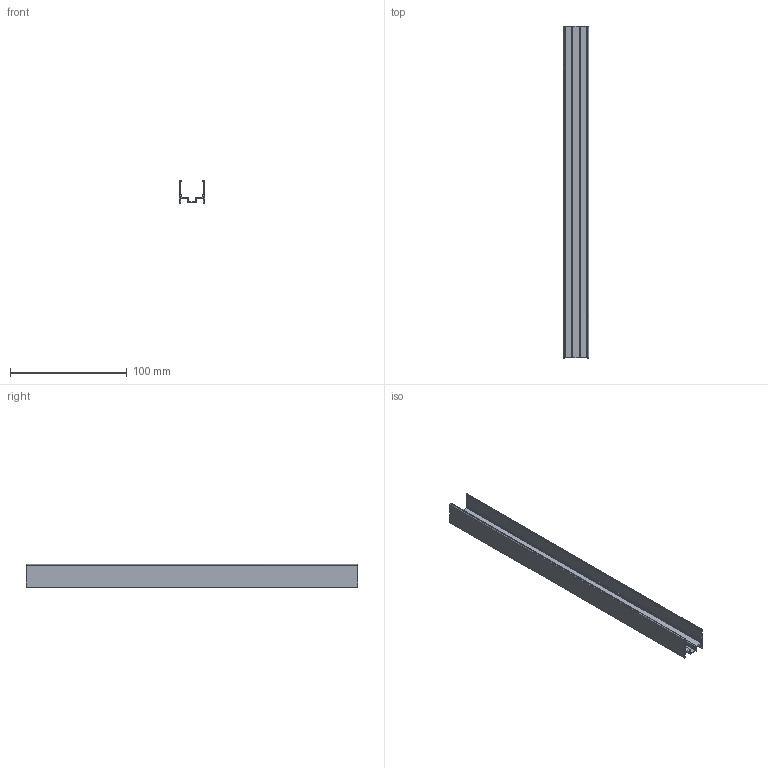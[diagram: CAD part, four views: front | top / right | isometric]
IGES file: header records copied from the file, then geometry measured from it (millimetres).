
Start section: C
Global section: file name: 025-000-0L.igs; native system: By Siemens PLM Incorporated; preprocessor: XPlus GENERIC/IGES 23.0.61; author: Author; organization: Title; date: 20250508.160914; units: millimetre
Bounding box: 21.5 x 284 x 19.7 mm (x, y, z)
Volume: 19571.7 mm3; surface area: 38759.6 mm2
Topology: 1 solids, 1 shells, 64 faces, 186 edges, 124 vertices
Faces by surface type: bspline 64
